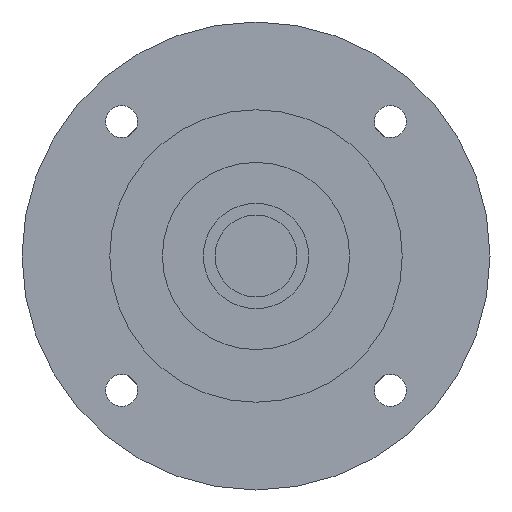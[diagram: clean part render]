
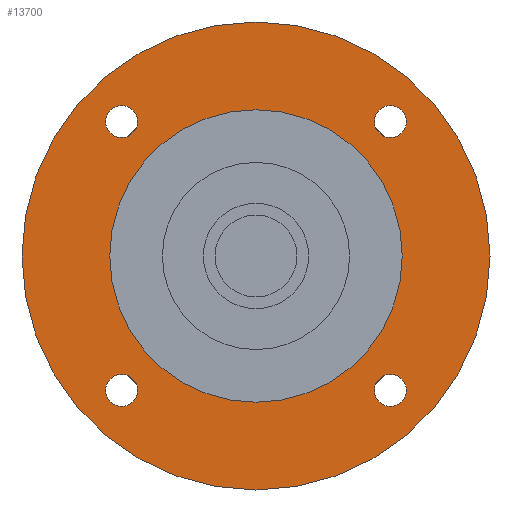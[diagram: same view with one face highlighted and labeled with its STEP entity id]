
A CAD part, left-side view. The second image highlights one B-rep face of the part: STEP entity #13700.
In plain terms, the highlighted planar face has unit normal (-1, 0, 0) as drawn and (0, 0, -1) by its records, which use the part's own axes.
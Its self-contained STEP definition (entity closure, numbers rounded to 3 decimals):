
#8640=CARTESIAN_POINT('',(0.,0.,-35.
));
#8650=DIRECTION('',(0.,0.,-1.));
#8660=DIRECTION('',(0.,-1.,0.));
#8670=AXIS2_PLACEMENT_3D('',#8640,#8650,#8660);
#8680=CIRCLE('',#8670,40.);
#8690=CARTESIAN_POINT('',(0.,-40.,-35.));
#8700=VERTEX_POINT('',#8690);
#8710=CARTESIAN_POINT('',(-40.,0.,-35.));
#8720=VERTEX_POINT('',#8710);
#8730=EDGE_CURVE('',#8700,#8720,#8680,.T.);
#9000=CARTESIAN_POINT('',(40.,0.,-35.));
#9010=VERTEX_POINT('',#9000);
#9040=EDGE_CURVE('',#9010,#8700,#8680,.T.);
#12650=CARTESIAN_POINT('',(25.,0.,-35.));
#12660=VERTEX_POINT('',#12650);
#12690=CARTESIAN_POINT('',(0.,0.,
-35.));
#12700=DIRECTION('',(0.,0.,1.));
#12710=DIRECTION('',(0.,1.,0.));
#12720=AXIS2_PLACEMENT_3D('',#12690,#12700,#12710);
#12730=CIRCLE('',#12720,25.);
#12740=CARTESIAN_POINT('',(0.,25.,-35.));
#12750=VERTEX_POINT('',#12740);
#12760=EDGE_CURVE('',#12660,#12750,#12730,.T.);
#12780=CARTESIAN_POINT('',(-25.,0.,-35.));
#12790=VERTEX_POINT('',#12780);
#12800=EDGE_CURVE('',#12750,#12790,#12730,.T.);
#12930=CARTESIAN_POINT('',(0.,0.,
-35.));
#12940=DIRECTION('',(0.,0.,-1.));
#12950=DIRECTION('',(1.,0.,0.));
#12960=AXIS2_PLACEMENT_3D('',#12930,#12940,#12950);
#12970=PLANE('',#12960);
#12980=CARTESIAN_POINT('',(22.981,-22.981,-35.));
#12990=DIRECTION('',(0.,0.,-1.));
#13000=DIRECTION('',(1.,0.,0.));
#13010=AXIS2_PLACEMENT_3D('',#12980,#12990,#13000);
#13020=CIRCLE('',#13010,2.75);
#13030=CARTESIAN_POINT('',(25.731,-22.981,-35.));
#13040=VERTEX_POINT('',#13030);
#13050=CARTESIAN_POINT('',(20.231,-22.981,-35.));
#13060=VERTEX_POINT('',#13050);
#13070=EDGE_CURVE('',#13040,#13060,#13020,.T.);
#13080=ORIENTED_EDGE('',*,*,#13070,.F.);
#13090=EDGE_CURVE('',#13060,#13040,#13020,.T.);
#13100=ORIENTED_EDGE('',*,*,#13090,.F.);
#13110=EDGE_LOOP('',(#13100,#13080));
#13120=FACE_BOUND('',#13110,.T.);
#13130=EDGE_CURVE('',#8720,#9010,#8680,.T.);
#13140=ORIENTED_EDGE('',*,*,#13130,.T.);
#13150=ORIENTED_EDGE('',*,*,#8730,.T.);
#13160=ORIENTED_EDGE('',*,*,#9040,.T.);
#13170=EDGE_LOOP('',(#13160,#13150,#13140));
#13180=FACE_OUTER_BOUND('',#13170,.T.);
#13190=CARTESIAN_POINT('',(22.981,22.981,-35.));
#13200=DIRECTION('',(0.,0.,-1.));
#13210=DIRECTION('',(0.,1.,0.));
#13220=AXIS2_PLACEMENT_3D('',#13190,#13200,#13210);
#13230=CIRCLE('',#13220,2.75);
#13240=CARTESIAN_POINT('',(22.981,25.731,-35.));
#13250=VERTEX_POINT('',#13240);
#13260=CARTESIAN_POINT('',(22.981,20.231,-35.));
#13270=VERTEX_POINT('',#13260);
#13280=EDGE_CURVE('',#13250,#13270,#13230,.T.);
#13290=ORIENTED_EDGE('',*,*,#13280,.F.);
#13300=EDGE_CURVE('',#13270,#13250,#13230,.T.);
#13310=ORIENTED_EDGE('',*,*,#13300,.F.);
#13320=EDGE_LOOP('',(#13310,#13290));
#13330=FACE_BOUND('',#13320,.T.);
#13340=CARTESIAN_POINT('',(-22.981,22.981,-35.));
#13350=DIRECTION('',(0.,0.,-1.));
#13360=DIRECTION('',(-1.,0.,0.));
#13370=AXIS2_PLACEMENT_3D('',#13340,#13350,#13360);
#13380=CIRCLE('',#13370,2.75);
#13390=CARTESIAN_POINT('',(-25.731,22.981,-35.));
#13400=VERTEX_POINT('',#13390);
#13410=CARTESIAN_POINT('',(-20.231,22.981,-35.));
#13420=VERTEX_POINT('',#13410);
#13430=EDGE_CURVE('',#13400,#13420,#13380,.T.);
#13440=ORIENTED_EDGE('',*,*,#13430,.F.);
#13450=EDGE_CURVE('',#13420,#13400,#13380,.T.);
#13460=ORIENTED_EDGE('',*,*,#13450,.F.);
#13470=EDGE_LOOP('',(#13460,#13440));
#13480=FACE_BOUND('',#13470,.T.);
#13490=CARTESIAN_POINT('',(-22.981,-22.981,-35.));
#13500=DIRECTION('',(0.,0.,-1.));
#13510=DIRECTION('',(0.,-1.,0.));
#13520=AXIS2_PLACEMENT_3D('',#13490,#13500,#13510);
#13530=CIRCLE('',#13520,2.75);
#13540=CARTESIAN_POINT('',(-22.981,-25.731,-35.));
#13550=VERTEX_POINT('',#13540);
#13560=CARTESIAN_POINT('',(-22.981,-20.231,-35.));
#13570=VERTEX_POINT('',#13560);
#13580=EDGE_CURVE('',#13550,#13570,#13530,.T.);
#13590=ORIENTED_EDGE('',*,*,#13580,.F.);
#13600=EDGE_CURVE('',#13570,#13550,#13530,.T.);
#13610=ORIENTED_EDGE('',*,*,#13600,.F.);
#13620=EDGE_LOOP('',(#13610,#13590));
#13630=FACE_BOUND('',#13620,.T.);
#13640=EDGE_CURVE('',#12790,#12660,#12730,.T.);
#13650=ORIENTED_EDGE('',*,*,#13640,.T.);
#13660=ORIENTED_EDGE('',*,*,#12800,.T.);
#13670=ORIENTED_EDGE('',*,*,#12760,.T.);
#13680=EDGE_LOOP('',(#13670,#13660,#13650));
#13690=FACE_BOUND('',#13680,.T.);
#13700=ADVANCED_FACE('',(#13120,#13180,#13330,#13480,#13630,#13690),
#12970,.T.);
